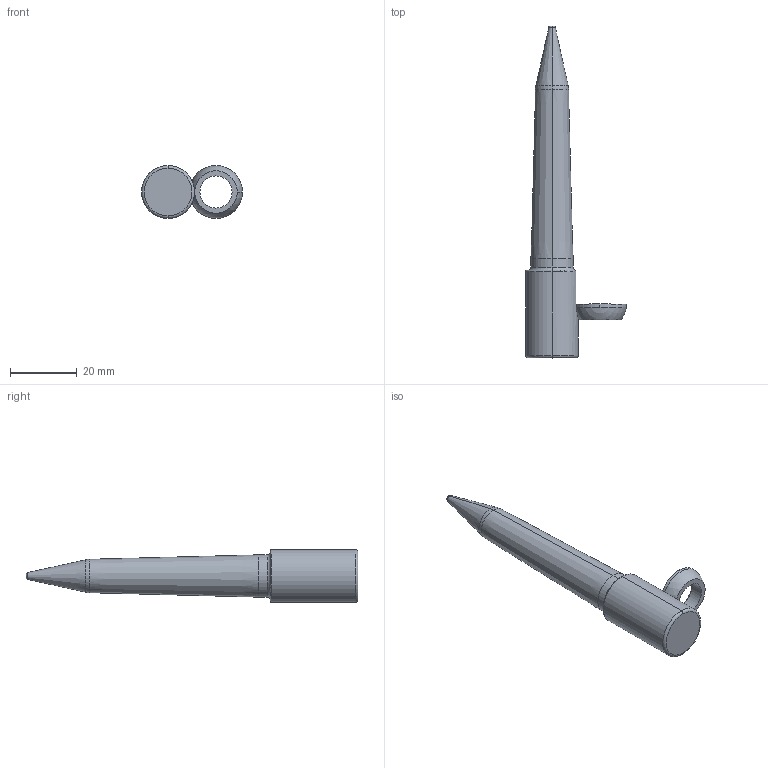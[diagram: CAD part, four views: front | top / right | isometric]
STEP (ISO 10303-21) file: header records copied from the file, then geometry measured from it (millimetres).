
FILE_DESCRIPTION (( 'STEP AP214' ), '1' );
FILE_NAME ('PA-T-.500-.100-2.0-3-A-F1.STEP', '2019-05-08T17:36:04', ( '' ), ( '' ), 'SwSTEP 2.0', 'SolidWorks 2017', '' );
FILE_SCHEMA (( 'AUTOMOTIVE_DESIGN' ));
Length unit declared in the file: inch
Products named in the file (3): SLPilot-PA-T-E_PA-T-.500-.100-2.0-3-A-F1; PA-T-.500-.100-2.0-3-A-F1; SLRadiusWasher_RadiusWasher-E
Assembly tree (2 placements, depth 2):
  PA-T-.500-.100-2.0-3-A-F1
    SLPilot-PA-T-E_PA-T-.500-.100-2.0-3-A-F1
    SLRadiusWasher_RadiusWasher-E
Bounding box: 30.28 x 99.69 x 15.88 mm (x, y, z)
Volume: 11860.3 mm3; surface area: 4413.1 mm2
Topology: 2 solids, 2 shells, 35 faces, 77 edges, 46 vertices
Faces by surface type: torus 11, cylinder 9, cone 6, plane 5, sphere 4
Entity records: 1168 total; most frequent: CARTESIAN_POINT 234, DIRECTION 208, ORIENTED_EDGE 154, AXIS2_PLACEMENT_3D 96, EDGE_CURVE 77, CIRCLE 56, VERTEX_POINT 46, EDGE_LOOP 37
